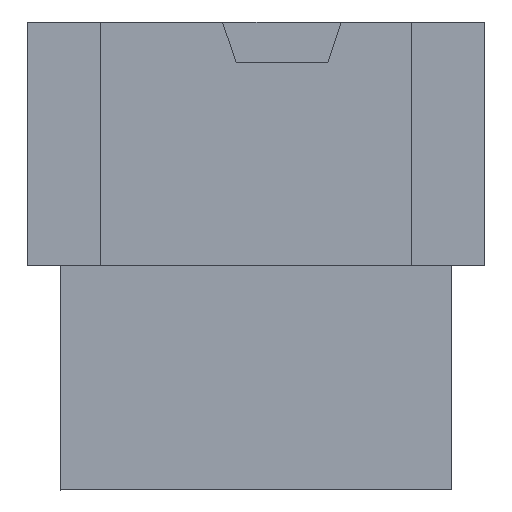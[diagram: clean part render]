
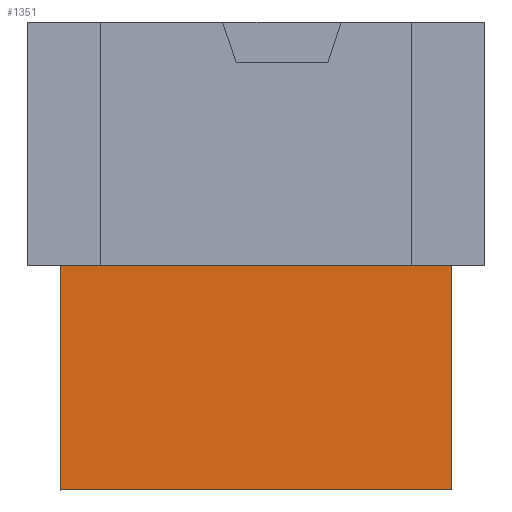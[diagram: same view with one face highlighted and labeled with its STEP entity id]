
A CAD part, top view. The second image highlights one B-rep face of the part: STEP entity #1351.
In plain terms, the highlighted planar face has unit normal (0, 0, 1).
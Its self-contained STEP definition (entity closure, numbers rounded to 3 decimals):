
#1324=AXIS2_PLACEMENT_3D('Plane Axis2P3D',#1321,#1322,#1323) ;
#585=CARTESIAN_POINT('Line Origine',(0.,-1.8,7.5)) ;
#589=CARTESIAN_POINT('Vertex',(14.35,-1.8,7.5)) ;
#591=CARTESIAN_POINT('Vertex',(-14.35,-1.8,7.5)) ;
#1321=CARTESIAN_POINT('Axis2P3D Location',(14.924,-1.471,7.5)) ;
#1326=CARTESIAN_POINT('Line Origine',(-14.35,-10.025,7.5)) ;
#1330=CARTESIAN_POINT('Vertex',(-14.35,-18.25,7.5)) ;
#1333=CARTESIAN_POINT('Line Origine',(0.,-18.25,7.5)) ;
#1337=CARTESIAN_POINT('Vertex',(14.35,-18.25,7.5)) ;
#1340=CARTESIAN_POINT('Line Origine',(14.35,-10.025,7.5)) ;
#586=DIRECTION('Vector Direction',(-1.,0.,0.)) ;
#1322=DIRECTION('Axis2P3D Direction',(0.,0.,1.)) ;
#1323=DIRECTION('Axis2P3D XDirection',(-1.,0.,0.)) ;
#1327=DIRECTION('Vector Direction',(0.,1.,0.)) ;
#1334=DIRECTION('Vector Direction',(1.,0.,0.)) ;
#1341=DIRECTION('Vector Direction',(0.,1.,0.)) ;
#587=VECTOR('Line Direction',#586,1.) ;
#1328=VECTOR('Line Direction',#1327,1.) ;
#1335=VECTOR('Line Direction',#1334,1.) ;
#1342=VECTOR('Line Direction',#1341,1.) ;
#1346=ORIENTED_EDGE('',*,*,#593,.T.) ;
#1347=ORIENTED_EDGE('',*,*,#1332,.F.) ;
#1348=ORIENTED_EDGE('',*,*,#1339,.T.) ;
#1349=ORIENTED_EDGE('',*,*,#1344,.T.) ;
#1351=ADVANCED_FACE('MANIFOLD_SOLID_BREP #33',(#1350),#1325,.T.) ;
#593=EDGE_CURVE('',#590,#592,#588,.T.) ;
#1332=EDGE_CURVE('',#1331,#592,#1329,.T.) ;
#1339=EDGE_CURVE('',#1331,#1338,#1336,.T.) ;
#1344=EDGE_CURVE('',#1338,#590,#1343,.T.) ;
#1345=EDGE_LOOP('',(#1346,#1347,#1348,#1349)) ;
#1350=FACE_OUTER_BOUND('',#1345,.T.) ;
#588=LINE('Line',#585,#587) ;
#1329=LINE('Line',#1326,#1328) ;
#1336=LINE('Line',#1333,#1335) ;
#1343=LINE('Line',#1340,#1342) ;
#1325=PLANE('',#1324) ;
#590=VERTEX_POINT('',#589) ;
#592=VERTEX_POINT('',#591) ;
#1331=VERTEX_POINT('',#1330) ;
#1338=VERTEX_POINT('',#1337) ;
